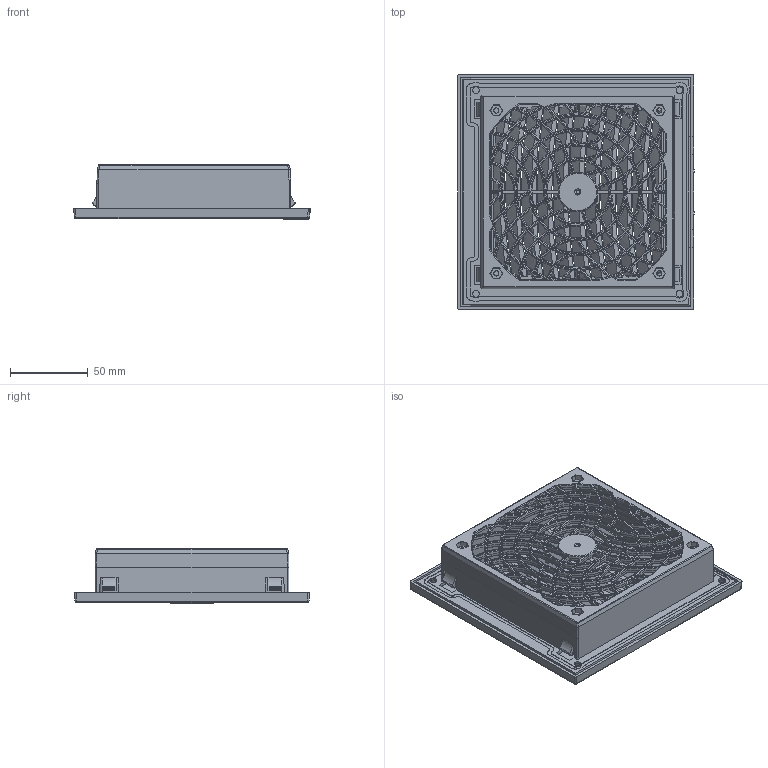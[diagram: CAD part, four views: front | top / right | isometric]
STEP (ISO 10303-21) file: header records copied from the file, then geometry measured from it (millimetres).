
FILE_DESCRIPTION(/* description */ (''),/* implementation_level */ '2;1');
FILE_NAME(/* name */ 'FC-150.stp',/* time_stamp */ '2024-11-14T15:11:22+08:00',/* author */ (''),/* organization */ (''),/* preprocessor_version */ 'ST-DEVELOPER v16.7',/* originating_system */ 'SIEMENS PLM Software NX 12.0',/* authorisation */ '');
FILE_SCHEMA (('AUTOMOTIVE_DESIGN { 1 0 10303 214 3 1 1 1 }'));
Products named in the file (1): Admi0570CD5Bx2eb
Bounding box: 152.3 x 151.39 x 34.8 mm (x, y, z)
Volume: 130480 mm3; surface area: 153023.1 mm2
Topology: 2 solids, 2 shells, 2789 faces, 7082 edges, 4196 vertices
Faces by surface type: torus 901, cylinder 667, cone 563, plane 548, bspline 106, sphere 4
Full cylindrical faces by diameter (mm): 2.487 x31, 4 x2, 4.5 x2
Entity records: 103047 total; most frequent: CARTESIAN_POINT 38681, ORIENTED_EDGE 13950, DIRECTION 13145, EDGE_CURVE 6975, AXIS2_PLACEMENT_3D 5651, VERTEX_POINT 4151, EDGE_LOOP 3054, CIRCLE 2881
